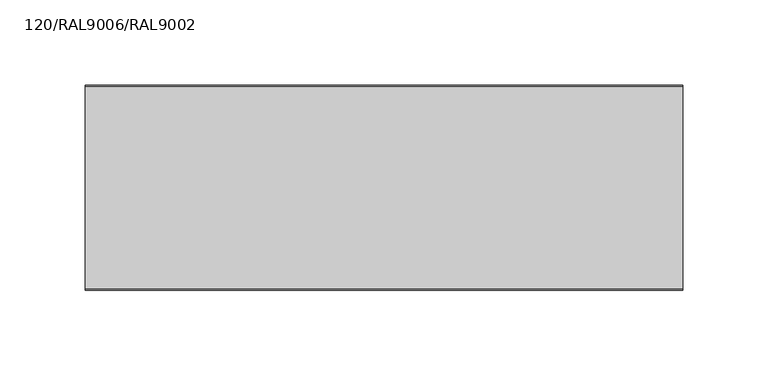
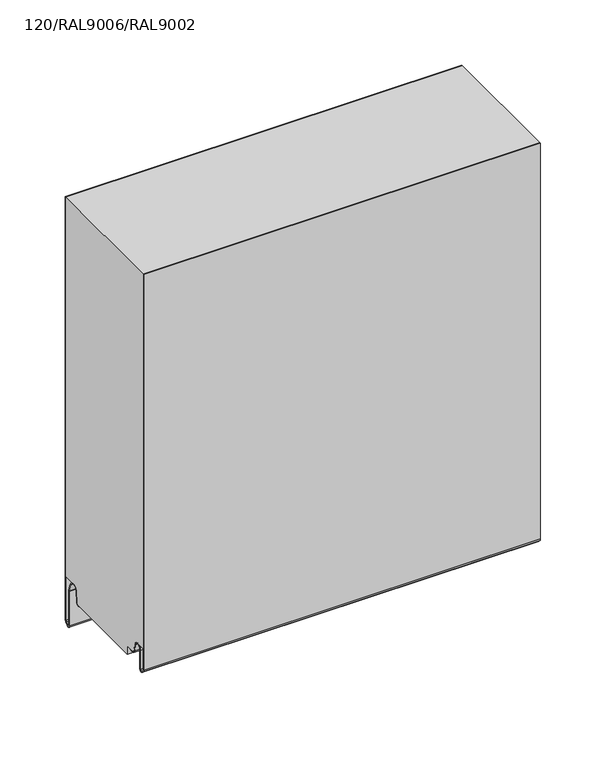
"""IFC4 building model written with IfcOpenShell, lengths in millimetres: plate geometry, TR_C_H_FHL_Panel_cut_GROOVE : 120/RAL9006/RAL9002."""

from ifc_helpers import new_model, si_unit, point, frame, frame_2d, origin, place, context, project, spatial, polyline, circle_curve, trimmed, segment, composite_curve, outline, extrude, source, transform, mapped, element, save


def plate_120_ral9006_ral9002_2db9554e(model_context):
    return source(origin(), model_context, "Body", "SweptSolid", [
        extrude(outline(composite_curve([segment(polyline([(-0.8, 15.9993484), (-12.3520294, 15.9993484)]), True, "CONTINUOUS"), segment(trimmed(circle_curve(frame_2d((-12.3520294, 11.0993484)), 4.9), [point((-12.3520294, 15.9993484))], [point((-17.2333835, 11.5264116))], True, "CARTESIAN"), True, "CONTINUOUS"), segment(polyline([(-17.2333835, 11.5264116), (-18.0972969, 1.6518352)]), True, "CONTINUOUS"), segment(trimmed(circle_curve(frame_2d((-19.7908279, 1.8)), 1.7), [point((-18.0972969, 1.6518352))], [point((-19.7908279, 0.1))], False, "CARTESIAN"), True, "CONTINUOUS"), segment(polyline([(-19.7908279, 0.1), (-20.8, 0.0), (-94.86, 0.0), (-94.86, 7.9), (-102.3925589, 7.9)]), True, "CONTINUOUS"), segment(trimmed(circle_curve(frame_2d((-102.3925589, 10.85)), 2.95), [point((-102.3925589, 7.9))], [point((-105.2977418, 10.3377379))], False, "CARTESIAN"), True, "CONTINUOUS"), segment(polyline([(-105.2977418, 10.3377379), (-106.364567, 16.3880048)]), True, "CONTINUOUS"), segment(trimmed(circle_curve(frame_2d((-110.55, 15.65)), 4.25), [point((-106.364567, 16.3880048))], [point((-110.55, 19.9))], True, "CARTESIAN"), True, "CONTINUOUS"), segment(polyline([(-110.55, 19.9), (-119.2, 19.9), (-119.2, 370.0), (-0.8, 370.0), (-0.8, 15.9993484)]), True, "CONTINUOUS")], self_intersect=False)), frame((-110.0, 0.0, 0.0), z_axis=(1.0, 0.0, 0.0), x_axis=(0.0, 1.0, 0.0)), (0.0, 0.0, 1.0), 350.0),
        extrude(outline(composite_curve([segment(polyline([(-20.8, -0.7), (-20.8, 0.1), (-19.7908279, 0.1)]), True, "CONTINUOUS"), segment(trimmed(circle_curve(frame_2d((-19.7908279, 1.8)), 1.7), [point((-19.7908279, 0.1))], [point((-18.0972969, 1.6518352))], True, "CARTESIAN"), True, "CONTINUOUS"), segment(polyline([(-18.0972969, 1.6518352), (-17.2333835, 11.5264116)]), True, "CONTINUOUS"), segment(trimmed(circle_curve(frame_2d((-12.3520294, 11.0993484)), 4.9), [point((-17.2333835, 11.5264116))], [point((-7.7189884, 12.6946324))], False, "CARTESIAN"), True, "CONTINUOUS"), segment(polyline([(-7.7189884, 12.6946324), (-5.3797887, 5.9011031)]), True, "CONTINUOUS"), segment(trimmed(circle_curve(frame_2d((-8.5, 4.8267282)), 3.3), [point((-5.3797887, 5.9011031))], [point((-5.2, 4.8267282))], False, "CARTESIAN"), True, "CONTINUOUS"), segment(polyline([(-5.2, 4.8267282), (-5.2, -27.5)]), True, "CONTINUOUS"), segment(trimmed(circle_curve(frame_2d((-4.1, -27.5)), 1.1), [point((-5.2, -27.5))], [point((-3.3498018, -28.3044891))], True, "CARTESIAN"), True, "CONTINUOUS"), segment(polyline([(-3.3498018, -28.3044891), (-1.4042031, -26.4901889)]), True, "CONTINUOUS"), segment(trimmed(circle_curve(frame_2d((-2.7, -25.1006169)), 1.9), [point((-1.4042031, -26.4901889))], [point((-0.8, -25.1006169))], True, "CARTESIAN"), True, "CONTINUOUS"), segment(polyline([(-0.8, -25.1006169), (-0.8, 370.0), (0.0, 370.0), (0.0, -25.1006169)]), True, "CONTINUOUS"), segment(trimmed(circle_curve(frame_2d((-2.7, -25.1006169)), 2.7), [point((0.0, -25.1006169))], [point((-0.8586044, -27.0752719))], False, "CARTESIAN"), True, "CONTINUOUS"), segment(polyline([(-0.8586044, -27.0752719), (-2.8042031, -28.889572)]), True, "CONTINUOUS"), segment(trimmed(circle_curve(frame_2d((-4.1, -27.5)), 1.9), [point((-2.8042031, -28.889572))], [point((-6.0, -27.5))], False, "CARTESIAN"), True, "CONTINUOUS"), segment(polyline([(-6.0, -27.5), (-6.0, 4.8267282)]), True, "CONTINUOUS"), segment(trimmed(circle_curve(frame_2d((-8.5, 4.8267282)), 2.5), [point((-6.0, 4.8267282))], [point((-6.1362036, 5.6406486))], True, "CARTESIAN"), True, "CONTINUOUS"), segment(polyline([(-6.1362036, 5.6406486), (-8.4754033, 12.4341779)]), True, "CONTINUOUS"), segment(trimmed(circle_curve(frame_2d((-12.3520294, 11.0993484)), 4.1), [point((-8.4754033, 12.4341779))], [point((-16.4364277, 11.456687))], True, "CARTESIAN"), True, "CONTINUOUS"), segment(polyline([(-16.4364277, 11.456687), (-17.3003412, 1.5821106)]), True, "CONTINUOUS"), segment(trimmed(circle_curve(frame_2d((-19.7908279, 1.8)), 2.5), [point((-17.3003412, 1.5821106))], [point((-19.7908279, -0.7))], False, "CARTESIAN"), True, "CONTINUOUS"), segment(polyline([(-19.7908279, -0.7), (-20.8, -0.7)]), True, "CONTINUOUS")], self_intersect=False)), frame((-110.0, 0.0, 0.0), z_axis=(1.0, 0.0, 0.0), x_axis=(0.0, 1.0, 0.0)), (0.0, 0.0, 1.0), 350.0),
        extrude(outline(composite_curve([segment(polyline([(-99.0, 7.1), (-102.3925589, 7.1)]), True, "CONTINUOUS"), segment(trimmed(circle_curve(frame_2d((-102.3925589, 10.85)), 3.75), [point((-102.3925589, 7.1))], [point((-106.085588, 10.1988193))], False, "CARTESIAN"), True, "CONTINUOUS"), segment(polyline([(-106.085588, 10.1988193), (-107.1524133, 16.2490862)]), True, "CONTINUOUS"), segment(trimmed(circle_curve(frame_2d((-110.55, 15.65)), 3.45), [point((-107.1524133, 16.2490862))], [point((-114.0, 15.65))], True, "CARTESIAN"), True, "CONTINUOUS"), segment(polyline([(-114.0, 15.65), (-114.0, -1.95)]), True, "CONTINUOUS"), segment(trimmed(circle_curve(frame_2d((-115.95, -1.95)), 1.95), [point((-114.0, -1.95))], [point((-117.3288582, -3.3288582))], False, "CARTESIAN"), True, "CONTINUOUS"), segment(polyline([(-117.3288582, -3.3288582), (-119.1945436, -1.4631728)]), True, "CONTINUOUS"), segment(trimmed(circle_curve(frame_2d((-117.25, 0.4813708)), 2.75), [point((-119.1945436, -1.4631728))], [point((-120.0, 0.4813708))], False, "CARTESIAN"), True, "CONTINUOUS"), segment(polyline([(-120.0, 0.4813708), (-120.0, 370.0), (-119.2, 370.0), (-119.2, 0.4813708)]), True, "CONTINUOUS"), segment(trimmed(circle_curve(frame_2d((-117.25, 0.4813708)), 1.95), [point((-119.2, 0.4813708))], [point((-118.6288582, -0.8974874))], True, "CARTESIAN"), True, "CONTINUOUS"), segment(polyline([(-118.6288582, -0.8974874), (-116.7631728, -2.7631728)]), True, "CONTINUOUS"), segment(trimmed(circle_curve(frame_2d((-115.95, -1.95)), 1.15), [point((-116.7631728, -2.7631728))], [point((-114.8, -1.95))], True, "CARTESIAN"), True, "CONTINUOUS"), segment(polyline([(-114.8, -1.95), (-114.8, 15.65)]), True, "CONTINUOUS"), segment(trimmed(circle_curve(frame_2d((-110.55, 15.65)), 4.25), [point((-114.8, 15.65))], [point((-106.364567, 16.3880048))], False, "CARTESIAN"), True, "CONTINUOUS"), segment(polyline([(-106.364567, 16.3880048), (-105.2977418, 10.3377379)]), True, "CONTINUOUS"), segment(trimmed(circle_curve(frame_2d((-102.3925589, 10.85)), 2.95), [point((-105.2977418, 10.3377379))], [point((-102.3925589, 7.9))], True, "CARTESIAN"), True, "CONTINUOUS"), segment(polyline([(-102.3925589, 7.9), (-99.0, 7.9), (-99.0, 7.1)]), True, "CONTINUOUS")], self_intersect=False)), frame((-110.0, 0.0, 0.0), z_axis=(1.0, 0.0, 0.0), x_axis=(0.0, 1.0, 0.0)), (0.0, 0.0, 1.0), 350.0),
    ])


if __name__ == "__main__":
    model = new_model("IFC4")
    model_context = context("Model", 3, world=origin())
    ifc_project = project(units=[si_unit("LENGTHUNIT", "METRE", prefix="MILLI")], contexts=[model_context])
    site = spatial("IfcSite", under=ifc_project)
    building = spatial("IfcBuilding", under=site)
    placement = place(None, origin())
    plate_120_ral9006_ral9002_shape = plate_120_ral9006_ral9002_2db9554e(model_context)
    element("IfcPlate", 1, ObjectType="TR_C_H_FHL_Panel_cut_GROOVE : 120/RAL9006/RAL9002", at=placement, inside=building, context=model_context, shape_type="MappedRepresentation", body=[
        mapped(plate_120_ral9006_ral9002_shape, transform((0.0, 0.0, 0.0), x_axis=(1.0, 0.0, 0.0), y_axis=(0.0, 1.0, 0.0), z_axis=(0.0, 0.0, 1.0))),
    ])
    save(model, "model.ifc")
